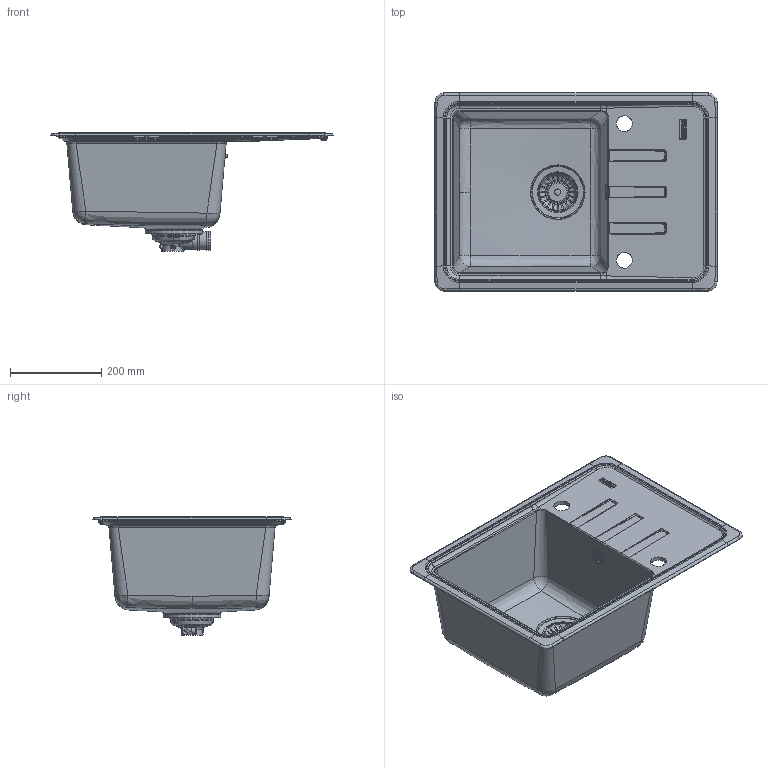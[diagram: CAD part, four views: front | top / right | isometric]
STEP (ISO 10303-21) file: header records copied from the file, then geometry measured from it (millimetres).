
FILE_DESCRIPTION(/* description */ (''),/* implementation_level */ '2;1');
FILE_NAME(/* name */ '3D001_Sinks_Malta_BSG-611-62',/* time_stamp */ '2024-07-11T10:11:33+02:00',/* author */ (''),/* organization */ (''),/* preprocessor_version */ 'ST-DEVELOPER v19.2',/* originating_system */ 'Rhino 8.7',/* authorisation */ '');
FILE_SCHEMA (('CONFIG_CONTROL_DESIGN'));
Length unit declared in the file: millimetre
Products named in the file (1): Document
Bounding box: 619.86 x 434.86 x 260.2 mm (x, y, z)
Surface area: 1026454.7 mm2
Topology: 6 solids, 11 shells, 1574 faces, 4051 edges, 2497 vertices
Faces by surface type: plane 660, bspline 607, cylinder 307
Full cylindrical faces by diameter (mm): 6 x1, 8 x1, 14 x1, 25 x2, 30 x1, 31 x1, 35 x4, 36 x1, 39 x1, 42 x2, 48 x1, 83.403 x1, 84 x1, 90 x1, 126 x1
Entity records: 97667 total; most frequent: CARTESIAN_POINT 65622, ORIENTED_EDGE 7989, EDGE_CURVE 4017, DIRECTION 3821, VERTEX_POINT 2497, B_SPLINE_CURVE_WITH_KNOTS 2464, AXIS2_PLACEMENT_3D 2394, EDGE_LOOP 1642
